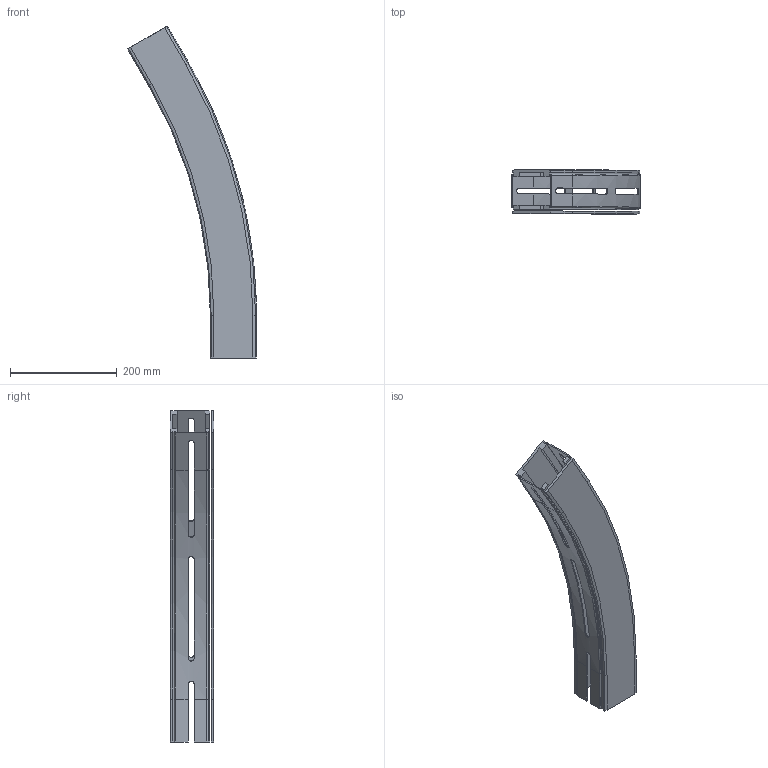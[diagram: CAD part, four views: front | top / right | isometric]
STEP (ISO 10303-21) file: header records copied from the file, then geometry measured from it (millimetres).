
FILE_DESCRIPTION(/* description */ ('GLIDKURVA SERIE 530'),/* implementation_level */ '2;1');
FILE_NAME(/* name */ '530-5375+830-2000-01.stp',/* time_stamp */ '2022-09-20T15:58:19+02:00',/* author */ ('Mathias.Dore'),/* organization */ ('CARRYLINE'),/* preprocessor_version */ 'ST-DEVELOPER v19.2',/* originating_system */ 'Autodesk Inventor 2023',/* authorisation */ '');
FILE_SCHEMA (('AUTOMOTIVE_DESIGN { 1 0 10303 214 3 1 1 }'));
Length unit declared in the file: millimetre
Products named in the file (1): 530-5375+830-2000-01
Bounding box: 240.82 x 82 x 620.78 mm (x, y, z)
Volume: 913832.9 mm3; surface area: 437896.1 mm2
Topology: 2 solids, 2 shells, 171 faces, 482 edges, 316 vertices
Faces by surface type: plane 111, cylinder 30, bspline 22, torus 4, cone 4
Entity records: 6061 total; most frequent: CARTESIAN_POINT 1588, ORIENTED_EDGE 964, DIRECTION 830, EDGE_CURVE 482, LINE 346, VECTOR 346, VERTEX_POINT 316, AXIS2_PLACEMENT_3D 242
